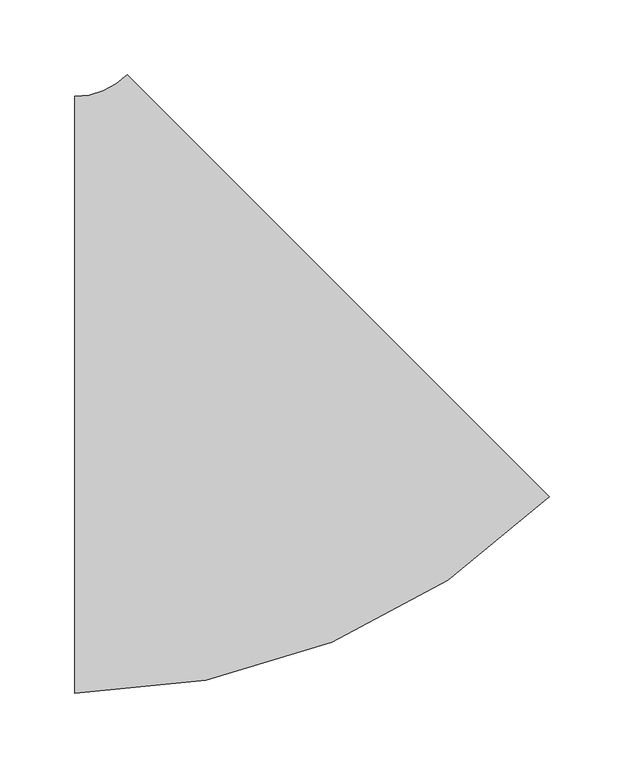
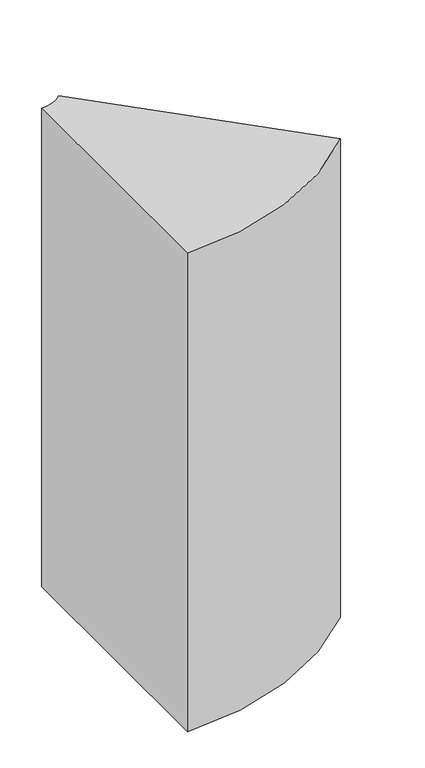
"""IFC4 building model written with IfcOpenShell, lengths in millimetres: duct fitting geometry, ADSK_ОтводВоздуховодов_Прямоугольный1 : Стандарт 2."""

from ifc_helpers import new_model, si_unit, point, frame, frame_2d, origin, place, context, project, spatial, polyline, circle_curve, trimmed, segment, composite_curve, outline, extrude, source, transform, mapped, element, save


def duct_fitting_974936e7(model_context):
    return source(origin(), model_context, "Body", "SweptSolid", [
        extrude(outline(composite_curve([segment(trimmed(circle_curve(frame_2d((-103.5533906, 250.0)), 450.0), [point((214.6446609, -68.1980515))], [point((-103.5533906, -200.0))], False, "CARTESIAN"), True, "CONTINUOUS"), segment(polyline([(-103.5533906, -200.0), (-103.5533906, 200.0)]), True, "CONTINUOUS"), segment(trimmed(circle_curve(frame_2d((-103.5533906, 250.0)), 50.0), [point((-103.5533906, 200.0))], [point((-68.1980515, 214.6446609))], True, "CARTESIAN"), True, "CONTINUOUS"), segment(polyline([(-68.1980515, 214.6446609), (214.6446609, -68.1980515)]), True, "CONTINUOUS")], self_intersect=False)), frame((0.0, 0.0, -400.0), z_axis=(0.0, 0.0, 1.0), x_axis=(1.0, 0.0, 0.0)), (0.0, 0.0, 1.0), 800.0),
    ])


if __name__ == "__main__":
    model = new_model("IFC4")
    model_context = context("Model", 3, world=origin())
    ifc_project = project(units=[si_unit("LENGTHUNIT", "METRE", prefix="MILLI")], contexts=[model_context])
    site = spatial("IfcSite", under=ifc_project)
    building = spatial("IfcBuilding", under=site)
    placement = place(None, origin())
    duct_fitting_shape = duct_fitting_974936e7(model_context)
    element("IfcDuctFitting", 1, ObjectType="ADSK_ОтводВоздуховодов_Прямоугольный1 : Стандарт 2", at=placement, inside=building, context=model_context, shape_type="MappedRepresentation", body=[
        mapped(duct_fitting_shape, transform((0.0, 0.0, 0.0), x_axis=(1.0, 0.0, 0.0), y_axis=(0.0, 1.0, 0.0), z_axis=(0.0, 0.0, 1.0))),
    ])
    save(model, "model.ifc")
